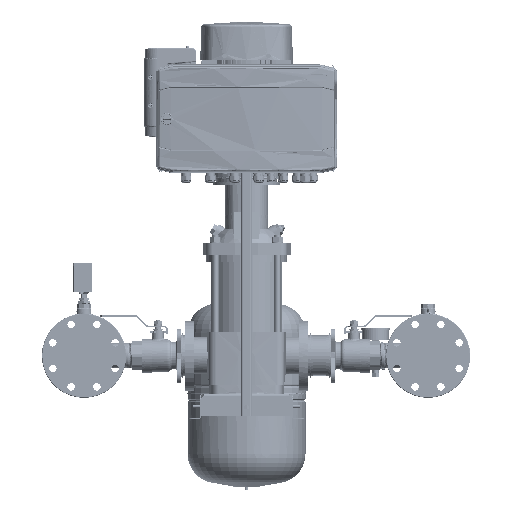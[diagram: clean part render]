
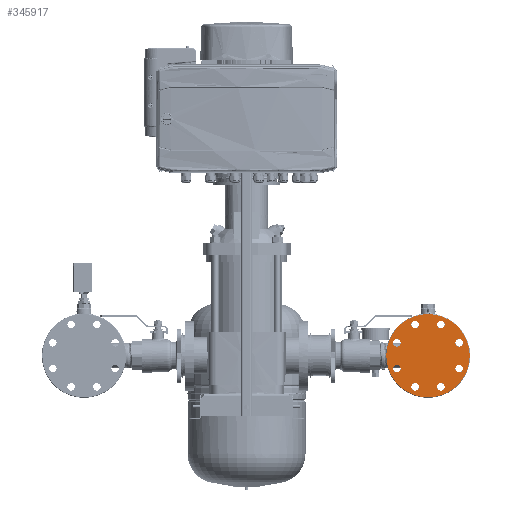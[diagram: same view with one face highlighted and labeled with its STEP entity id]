
A CAD part, left-side view. The second image highlights one B-rep face of the part: STEP entity #345917.
In plain terms, the highlighted planar face has unit normal (-1, 0, 0) as drawn and (1, 0, 0) by its records, which use the part's own axes.
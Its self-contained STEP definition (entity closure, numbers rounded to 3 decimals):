
#345311=CARTESIAN_POINT('Vertex',(20.,-38.513,69.596)) ;
#345316=CARTESIAN_POINT('Axis2P3D Location',(20.,-30.615,73.91)) ;
#345320=CARTESIAN_POINT('Vertex',(20.,-22.716,78.225)) ;
#345342=CARTESIAN_POINT('Axis2P3D Location',(20.,-30.615,73.91)) ;
#345368=CARTESIAN_POINT('Vertex',(20.,21.979,76.444)) ;
#345373=CARTESIAN_POINT('Axis2P3D Location',(20.,30.615,73.91)) ;
#345377=CARTESIAN_POINT('Vertex',(20.,39.251,71.377)) ;
#345399=CARTESIAN_POINT('Axis2P3D Location',(20.,30.615,73.91)) ;
#345425=CARTESIAN_POINT('Vertex',(20.,69.596,38.513)) ;
#345430=CARTESIAN_POINT('Axis2P3D Location',(20.,73.91,30.615)) ;
#345434=CARTESIAN_POINT('Vertex',(20.,78.225,22.716)) ;
#345456=CARTESIAN_POINT('Axis2P3D Location',(20.,73.91,30.615)) ;
#345482=CARTESIAN_POINT('Vertex',(20.,76.444,-21.979)) ;
#345487=CARTESIAN_POINT('Axis2P3D Location',(20.,73.91,-30.615)) ;
#345491=CARTESIAN_POINT('Vertex',(20.,71.377,-39.251)) ;
#345513=CARTESIAN_POINT('Axis2P3D Location',(20.,73.91,-30.615)) ;
#345539=CARTESIAN_POINT('Vertex',(20.,38.513,-69.596)) ;
#345544=CARTESIAN_POINT('Axis2P3D Location',(20.,30.615,-73.91)) ;
#345548=CARTESIAN_POINT('Vertex',(20.,22.716,-78.225)) ;
#345570=CARTESIAN_POINT('Axis2P3D Location',(20.,30.615,-73.91)) ;
#345596=CARTESIAN_POINT('Vertex',(20.,-21.979,-76.444)) ;
#345601=CARTESIAN_POINT('Axis2P3D Location',(20.,-30.615,-73.91)) ;
#345605=CARTESIAN_POINT('Vertex',(20.,-39.251,-71.377)) ;
#345627=CARTESIAN_POINT('Axis2P3D Location',(20.,-30.615,-73.91)) ;
#345653=CARTESIAN_POINT('Vertex',(20.,-69.596,-38.513)) ;
#345658=CARTESIAN_POINT('Axis2P3D Location',(20.,-73.91,-30.615)) ;
#345662=CARTESIAN_POINT('Vertex',(20.,-78.225,-22.716)) ;
#345684=CARTESIAN_POINT('Axis2P3D Location',(20.,-73.91,-30.615)) ;
#345710=CARTESIAN_POINT('Vertex',(20.,-76.444,21.979)) ;
#345715=CARTESIAN_POINT('Axis2P3D Location',(20.,-73.91,30.615)) ;
#345719=CARTESIAN_POINT('Vertex',(20.,-71.377,39.251)) ;
#345741=CARTESIAN_POINT('Axis2P3D Location',(20.,-73.91,30.615)) ;
#345862=CARTESIAN_POINT('Axis2P3D Location',(20.,0.,0.)) ;
#345867=CARTESIAN_POINT('Axis2P3D Location',(20.,0.,0.)) ;
#345871=CARTESIAN_POINT('Vertex',(20.,-99.,0.)) ;
#345873=CARTESIAN_POINT('Vertex',(20.,99.,0.)) ;
#345876=CARTESIAN_POINT('Axis2P3D Location',(20.,0.,0.)) ;
#345317=DIRECTION('Axis2P3D Direction',(1.,0.,-0.)) ;
#345343=DIRECTION('Axis2P3D Direction',(1.,0.,-0.)) ;
#345374=DIRECTION('Axis2P3D Direction',(1.,-0.,0.)) ;
#345400=DIRECTION('Axis2P3D Direction',(1.,-0.,0.)) ;
#345431=DIRECTION('Axis2P3D Direction',(1.,0.,0.)) ;
#345457=DIRECTION('Axis2P3D Direction',(1.,0.,0.)) ;
#345488=DIRECTION('Axis2P3D Direction',(1.,0.,0.)) ;
#345514=DIRECTION('Axis2P3D Direction',(1.,0.,0.)) ;
#345545=DIRECTION('Axis2P3D Direction',(1.,0.,0.)) ;
#345571=DIRECTION('Axis2P3D Direction',(1.,0.,0.)) ;
#345602=DIRECTION('Axis2P3D Direction',(1.,0.,0.)) ;
#345628=DIRECTION('Axis2P3D Direction',(1.,0.,0.)) ;
#345659=DIRECTION('Axis2P3D Direction',(1.,0.,-0.)) ;
#345685=DIRECTION('Axis2P3D Direction',(1.,0.,-0.)) ;
#345716=DIRECTION('Axis2P3D Direction',(1.,0.,-0.)) ;
#345742=DIRECTION('Axis2P3D Direction',(1.,0.,-0.)) ;
#345863=DIRECTION('Axis2P3D Direction',(1.,0.,0.)) ;
#345864=DIRECTION('Axis2P3D XDirection',(0.,1.,0.)) ;
#345868=DIRECTION('Axis2P3D Direction',(1.,0.,0.)) ;
#345877=DIRECTION('Axis2P3D Direction',(1.,0.,0.)) ;
#345318=AXIS2_PLACEMENT_3D('Circle Axis2P3D',#345316,#345317,$) ;
#345344=AXIS2_PLACEMENT_3D('Circle Axis2P3D',#345342,#345343,$) ;
#345375=AXIS2_PLACEMENT_3D('Circle Axis2P3D',#345373,#345374,$) ;
#345401=AXIS2_PLACEMENT_3D('Circle Axis2P3D',#345399,#345400,$) ;
#345432=AXIS2_PLACEMENT_3D('Circle Axis2P3D',#345430,#345431,$) ;
#345458=AXIS2_PLACEMENT_3D('Circle Axis2P3D',#345456,#345457,$) ;
#345489=AXIS2_PLACEMENT_3D('Circle Axis2P3D',#345487,#345488,$) ;
#345515=AXIS2_PLACEMENT_3D('Circle Axis2P3D',#345513,#345514,$) ;
#345546=AXIS2_PLACEMENT_3D('Circle Axis2P3D',#345544,#345545,$) ;
#345572=AXIS2_PLACEMENT_3D('Circle Axis2P3D',#345570,#345571,$) ;
#345603=AXIS2_PLACEMENT_3D('Circle Axis2P3D',#345601,#345602,$) ;
#345629=AXIS2_PLACEMENT_3D('Circle Axis2P3D',#345627,#345628,$) ;
#345660=AXIS2_PLACEMENT_3D('Circle Axis2P3D',#345658,#345659,$) ;
#345686=AXIS2_PLACEMENT_3D('Circle Axis2P3D',#345684,#345685,$) ;
#345717=AXIS2_PLACEMENT_3D('Circle Axis2P3D',#345715,#345716,$) ;
#345743=AXIS2_PLACEMENT_3D('Circle Axis2P3D',#345741,#345742,$) ;
#345865=AXIS2_PLACEMENT_3D('Plane Axis2P3D',#345862,#345863,#345864) ;
#345869=AXIS2_PLACEMENT_3D('Circle Axis2P3D',#345867,#345868,$) ;
#345878=AXIS2_PLACEMENT_3D('Circle Axis2P3D',#345876,#345877,$) ;
#345319=CIRCLE('generated circle',#345318,9.) ;
#345345=CIRCLE('generated circle',#345344,9.) ;
#345376=CIRCLE('generated circle',#345375,9.) ;
#345402=CIRCLE('generated circle',#345401,9.) ;
#345433=CIRCLE('generated circle',#345432,9.) ;
#345459=CIRCLE('generated circle',#345458,9.) ;
#345490=CIRCLE('generated circle',#345489,9.) ;
#345516=CIRCLE('generated circle',#345515,9.) ;
#345547=CIRCLE('generated circle',#345546,9.) ;
#345573=CIRCLE('generated circle',#345572,9.) ;
#345604=CIRCLE('generated circle',#345603,9.) ;
#345630=CIRCLE('generated circle',#345629,9.) ;
#345661=CIRCLE('generated circle',#345660,9.) ;
#345687=CIRCLE('generated circle',#345686,9.) ;
#345718=CIRCLE('generated circle',#345717,9.) ;
#345744=CIRCLE('generated circle',#345743,9.) ;
#345870=CIRCLE('generated circle',#345869,99.) ;
#345879=CIRCLE('generated circle',#345878,99.) ;
#345866=PLANE('',#345865) ;
#345888=FACE_BOUND('',#345885,.T.) ;
#345892=FACE_BOUND('',#345889,.T.) ;
#345896=FACE_BOUND('',#345893,.T.) ;
#345900=FACE_BOUND('',#345897,.T.) ;
#345904=FACE_BOUND('',#345901,.T.) ;
#345908=FACE_BOUND('',#345905,.T.) ;
#345912=FACE_BOUND('',#345909,.T.) ;
#345916=FACE_BOUND('',#345913,.T.) ;
#345322=EDGE_CURVE('',#345312,#345321,#345319,.T.) ;
#345346=EDGE_CURVE('',#345321,#345312,#345345,.T.) ;
#345379=EDGE_CURVE('',#345369,#345378,#345376,.T.) ;
#345403=EDGE_CURVE('',#345378,#345369,#345402,.T.) ;
#345436=EDGE_CURVE('',#345426,#345435,#345433,.T.) ;
#345460=EDGE_CURVE('',#345435,#345426,#345459,.T.) ;
#345493=EDGE_CURVE('',#345483,#345492,#345490,.T.) ;
#345517=EDGE_CURVE('',#345492,#345483,#345516,.T.) ;
#345550=EDGE_CURVE('',#345540,#345549,#345547,.T.) ;
#345574=EDGE_CURVE('',#345549,#345540,#345573,.T.) ;
#345607=EDGE_CURVE('',#345597,#345606,#345604,.T.) ;
#345631=EDGE_CURVE('',#345606,#345597,#345630,.T.) ;
#345664=EDGE_CURVE('',#345654,#345663,#345661,.T.) ;
#345688=EDGE_CURVE('',#345663,#345654,#345687,.T.) ;
#345721=EDGE_CURVE('',#345711,#345720,#345718,.T.) ;
#345745=EDGE_CURVE('',#345720,#345711,#345744,.T.) ;
#345875=EDGE_CURVE('',#345872,#345874,#345870,.T.) ;
#345880=EDGE_CURVE('',#345874,#345872,#345879,.T.) ;
#345882=ORIENTED_EDGE('',*,*,#345875,.T.) ;
#345883=ORIENTED_EDGE('',*,*,#345880,.T.) ;
#345886=ORIENTED_EDGE('',*,*,#345379,.F.) ;
#345887=ORIENTED_EDGE('',*,*,#345403,.F.) ;
#345890=ORIENTED_EDGE('',*,*,#345346,.F.) ;
#345891=ORIENTED_EDGE('',*,*,#345322,.F.) ;
#345894=ORIENTED_EDGE('',*,*,#345436,.F.) ;
#345895=ORIENTED_EDGE('',*,*,#345460,.F.) ;
#345898=ORIENTED_EDGE('',*,*,#345493,.F.) ;
#345899=ORIENTED_EDGE('',*,*,#345517,.F.) ;
#345902=ORIENTED_EDGE('',*,*,#345550,.F.) ;
#345903=ORIENTED_EDGE('',*,*,#345574,.F.) ;
#345906=ORIENTED_EDGE('',*,*,#345607,.F.) ;
#345907=ORIENTED_EDGE('',*,*,#345631,.F.) ;
#345910=ORIENTED_EDGE('',*,*,#345664,.F.) ;
#345911=ORIENTED_EDGE('',*,*,#345688,.F.) ;
#345914=ORIENTED_EDGE('',*,*,#345721,.F.) ;
#345915=ORIENTED_EDGE('',*,*,#345745,.F.) ;
#345881=EDGE_LOOP('',(#345882,#345883)) ;
#345885=EDGE_LOOP('',(#345886,#345887)) ;
#345889=EDGE_LOOP('',(#345890,#345891)) ;
#345893=EDGE_LOOP('',(#345894,#345895)) ;
#345897=EDGE_LOOP('',(#345898,#345899)) ;
#345901=EDGE_LOOP('',(#345902,#345903)) ;
#345905=EDGE_LOOP('',(#345906,#345907)) ;
#345909=EDGE_LOOP('',(#345910,#345911)) ;
#345913=EDGE_LOOP('',(#345914,#345915)) ;
#345312=VERTEX_POINT('',#345311) ;
#345321=VERTEX_POINT('',#345320) ;
#345369=VERTEX_POINT('',#345368) ;
#345378=VERTEX_POINT('',#345377) ;
#345426=VERTEX_POINT('',#345425) ;
#345435=VERTEX_POINT('',#345434) ;
#345483=VERTEX_POINT('',#345482) ;
#345492=VERTEX_POINT('',#345491) ;
#345540=VERTEX_POINT('',#345539) ;
#345549=VERTEX_POINT('',#345548) ;
#345597=VERTEX_POINT('',#345596) ;
#345606=VERTEX_POINT('',#345605) ;
#345654=VERTEX_POINT('',#345653) ;
#345663=VERTEX_POINT('',#345662) ;
#345711=VERTEX_POINT('',#345710) ;
#345720=VERTEX_POINT('',#345719) ;
#345872=VERTEX_POINT('',#345871) ;
#345874=VERTEX_POINT('',#345873) ;
#345917=ADVANCED_FACE('PartBody',(#345884,#345888,#345892,#345896,#345900,#345904,#345908,#345912,#345916),#345866,.T.) ;
#345884=FACE_OUTER_BOUND('',#345881,.T.) ;
